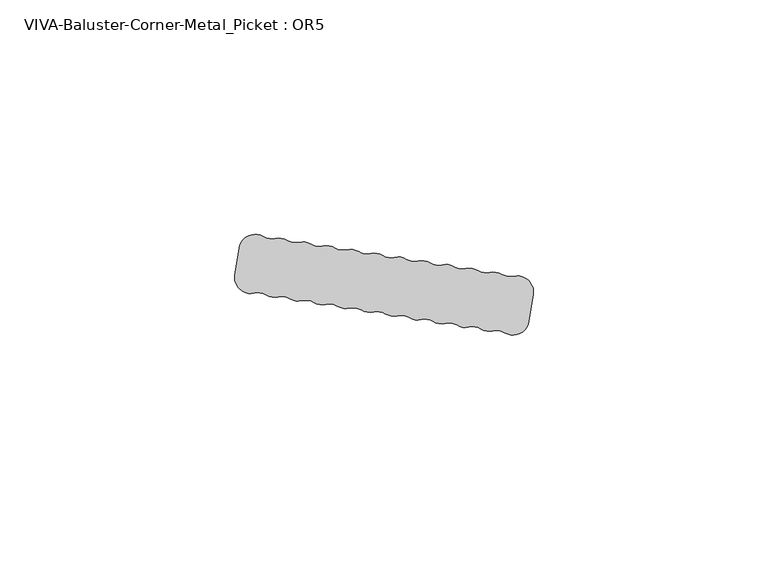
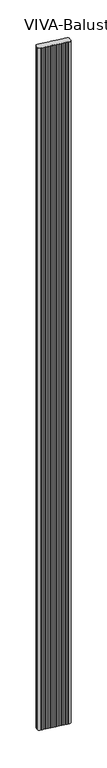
"""IFC4 building model written with IfcOpenShell, lengths in millimetres: railing geometry, VIVA-Baluster-Corner-Metal_Picket : OR5."""

from ifc_helpers import new_model, si_unit, frame, origin, place, context, project, spatial, polyline, circle_curve, source, transform, mapped, element, save
from ifc_brep_helpers import plane_surface, cylinder_surface, revolved_surface, advanced_brep


def viva_baluster_corner_metal_picket_or5_769cadf6(model_context):
    return source(origin(), model_context, "Body", "AdvancedBrep", [
        advanced_brep(
        [(50.6303843, 139.2897804, 1219.2), (55.7951848, 141.6988962, 1219.2), (56.7064442, 147.4523617, 1219.2), (52.5388848, 151.3395781, 1219.2), (49.9967015, 151.7422204, 1219.2), (47.4545181, 152.1448627, 1219.2), (44.9123348, 152.547505, 1219.2), (42.3701515, 152.9501473, 1219.2), (39.8279682, 153.3527895, 1219.2), (37.2857848, 153.7554318, 1219.2), (34.7436015, 154.1580741, 1219.2), (32.2014182, 154.5607164, 1219.2), (29.6592349, 154.9633587, 1219.2), (27.1170515, 155.366001, 1219.2), (24.5748682, 155.7686432, 1219.2), (22.0326849, 156.1712855, 1219.2), (19.4905016, 156.5739278, 1219.2), (16.9483182, 156.9765701, 1219.2), (14.4061349, 157.3792124, 1219.2), (11.8639516, 157.7818547, 1219.2), (9.3217683, 158.1844969, 1219.2), (6.7795849, 158.5871392, 1219.2), (4.2374016, 158.9897815, 1219.2), (1.6952183, 159.3924238, 1219.2), (-0.846965, 159.7950661, 1219.2), (-6.0117655, 157.3859502, 1219.2), (-6.9230249, 151.6324848, 1219.2), (-2.7554655, 147.7452683, 1219.2), (-0.2132822, 147.342626, 1219.2), (2.3289011, 146.9399838, 1219.2), (4.8710845, 146.5373415, 1219.2), (7.4132678, 146.1346992, 1219.2), (9.9554511, 145.7320569, 1219.2), (12.4976344, 145.3294146, 1219.2), (15.0398178, 144.9267723, 1219.2), (17.5820011, 144.5241301, 1219.2), (20.1241844, 144.1214878, 1219.2), (22.6663677, 143.7188455, 1219.2), (25.2085511, 143.3162032, 1219.2), (27.7507344, 142.9135609, 1219.2), (30.2929177, 142.5109186, 1219.2), (32.835101, 142.1082764, 1219.2), (35.3772844, 141.7056341, 1219.2), (37.9194677, 141.3029918, 1219.2), (40.461651, 140.9003495, 1219.2), (43.0038343, 140.4977072, 1219.2), (45.5460177, 140.0950649, 1219.2), (48.088201, 139.6924227, 1219.2), (50.6303843, 139.2897804, -245.8945017), (48.088201, 139.6924227, -245.8945017), (45.5460177, 140.0950649, -245.8945017), (43.0038343, 140.4977072, -245.8945017), (40.461651, 140.9003495, -245.8945017), (37.9194677, 141.3029918, -245.8945017), (35.3772844, 141.7056341, -245.8945017), (32.835101, 142.1082764, -245.8945017), (30.2929177, 142.5109186, -245.8945017), (27.7507344, 142.9135609, -245.8945017), (25.2085511, 143.3162032, -245.8945017), (22.6663677, 143.7188455, -245.8945017), (20.1241844, 144.1214878, -245.8945017), (17.5820011, 144.5241301, -245.8945017), (15.0398178, 144.9267723, -245.8945017), (12.4976344, 145.3294146, -245.8945017), (9.9554511, 145.7320569, -245.8945017), (7.4132678, 146.1346992, -245.8945017), (4.8710845, 146.5373415, -245.8945017), (2.3289011, 146.9399838, -245.8945017), (-0.2132822, 147.342626, -245.8945017), (-2.7554655, 147.7452683, -245.8945017), (-6.9230249, 151.6324848, -245.8945017), (-6.0117655, 157.3859502, -245.8945017), (-0.846965, 159.7950661, -245.8945017), (1.6952183, 159.3924238, -245.8945017), (4.2374016, 158.9897815, -245.8945017), (6.7795849, 158.5871392, -245.8945017), (9.3217683, 158.1844969, -245.8945017), (11.8639516, 157.7818547, -245.8945017), (14.4061349, 157.3792124, -245.8945017), (16.9483182, 156.9765701, -245.8945017), (19.4905016, 156.5739278, -245.8945017), (22.0326849, 156.1712855, -245.8945017), (24.5748682, 155.7686432, -245.8945017), (27.1170515, 155.366001, -245.8945017), (29.6592349, 154.9633587, -245.8945017), (32.2014182, 154.5607164, -245.8945017), (34.7436015, 154.1580741, -245.8945017), (37.2857848, 153.7554318, -245.8945017), (39.8279682, 153.3527895, -245.8945017), (42.3701515, 152.9501473, -245.8945017), (44.9123348, 152.547505, -245.8945017), (47.4545181, 152.1448627, -245.8945017), (49.9967015, 151.7422204, -245.8945017), (52.5388848, 151.3395781, -245.8945017), (56.7064442, 147.4523617, -245.8945017), (55.7951848, 141.6988962, -245.8945017)],
        [
            (0, 1, circle_curve(frame((52.4000965, 142.2366254, 1219.2), z_axis=(0.0, 0.0, 1.0), x_axis=(1.0, 0.0, 0.0)), 3.4374084)),
            (1, 2),
            (2, 3, circle_curve(frame((53.3113559, 147.9900908, 1219.2), z_axis=(0.0, 0.0, 1.0), x_axis=(1.0, 0.0, 0.0)), 3.4374084)),
            (3, 4, circle_curve(frame((51.7664137, 154.6890654, 1219.2), z_axis=(0.0, 0.0, -1.0), x_axis=(1.0, 0.0, 0.0)), 3.4374084)),
            (4, 5, circle_curve(frame((48.2269893, 148.7953754, 1219.2), z_axis=(0.0, 0.0, 1.0), x_axis=(1.0, 0.0, 0.0)), 3.4374084)),
            (5, 6, circle_curve(frame((46.682047, 155.49435, 1219.2), z_axis=(0.0, 0.0, -1.0), x_axis=(1.0, 0.0, 0.0)), 3.4374084)),
            (6, 7, circle_curve(frame((43.1426226, 149.60066, 1219.2), z_axis=(0.0, 0.0, 1.0), x_axis=(1.0, 0.0, 0.0)), 3.4374084)),
            (7, 8, circle_curve(frame((41.5976804, 156.2996346, 1219.2), z_axis=(0.0, 0.0, -1.0), x_axis=(1.0, 0.0, 0.0)), 3.4374084)),
            (8, 9, circle_curve(frame((38.058256, 150.4059445, 1219.2), z_axis=(0.0, 0.0, 1.0), x_axis=(1.0, 0.0, 0.0)), 3.4374084)),
            (9, 10, circle_curve(frame((36.5133137, 157.1049191, 1219.2), z_axis=(0.0, 0.0, -1.0), x_axis=(1.0, 0.0, 0.0)), 3.4374084)),
            (10, 11, circle_curve(frame((32.9738893, 151.2112291, 1219.2), z_axis=(0.0, 0.0, 1.0), x_axis=(1.0, 0.0, 0.0)), 3.4374084)),
            (11, 12, circle_curve(frame((31.4289471, 157.9102037, 1219.2), z_axis=(0.0, 0.0, -1.0), x_axis=(1.0, 0.0, 0.0)), 3.4374084)),
            (12, 13, circle_curve(frame((27.8895227, 152.0165137, 1219.2), z_axis=(0.0, 0.0, 1.0), x_axis=(1.0, 0.0, 0.0)), 3.4374084)),
            (13, 14, circle_curve(frame((26.3445804, 158.7154883, 1219.2), z_axis=(0.0, 0.0, -1.0), x_axis=(1.0, 0.0, 0.0)), 3.4374084)),
            (14, 15, circle_curve(frame((22.805156, 152.8217982, 1219.2), z_axis=(0.0, 0.0, 1.0), x_axis=(1.0, 0.0, 0.0)), 3.4374084)),
            (15, 16, circle_curve(frame((21.2602138, 159.5207728, 1219.2), z_axis=(0.0, 0.0, -1.0), x_axis=(1.0, 0.0, 0.0)), 3.4374084)),
            (16, 17, circle_curve(frame((17.7207894, 153.6270828, 1219.2), z_axis=(0.0, 0.0, 1.0), x_axis=(1.0, 0.0, 0.0)), 3.4374084)),
            (17, 18, circle_curve(frame((16.1758471, 160.3260574, 1219.2), z_axis=(0.0, 0.0, -1.0), x_axis=(1.0, 0.0, 0.0)), 3.4374084)),
            (18, 19, circle_curve(frame((12.6364227, 154.4323674, 1219.2), z_axis=(0.0, 0.0, 1.0), x_axis=(1.0, 0.0, 0.0)), 3.4374084)),
            (19, 20, circle_curve(frame((11.0914805, 161.131342, 1219.2), z_axis=(0.0, 0.0, -1.0), x_axis=(1.0, 0.0, 0.0)), 3.4374084)),
            (20, 21, circle_curve(frame((7.5520561, 155.2376519, 1219.2), z_axis=(0.0, 0.0, 1.0), x_axis=(1.0, 0.0, 0.0)), 3.4374084)),
            (21, 22, circle_curve(frame((6.0071138, 161.9366265, 1219.2), z_axis=(0.0, 0.0, -1.0), x_axis=(1.0, 0.0, 0.0)), 3.4374084)),
            (22, 23, circle_curve(frame((2.4676894, 156.0429365, 1219.2), z_axis=(0.0, 0.0, 1.0), x_axis=(1.0, 0.0, 0.0)), 3.4374084)),
            (23, 24, circle_curve(frame((0.9227472, 162.7419111, 1219.2), z_axis=(0.0, 0.0, -1.0), x_axis=(1.0, 0.0, 0.0)), 3.4374084)),
            (24, 25, circle_curve(frame((-2.6166772, 156.8482211, 1219.2), z_axis=(0.0, 0.0, 1.0), x_axis=(1.0, 0.0, 0.0)), 3.4374084)),
            (25, 26),
            (26, 27, circle_curve(frame((-3.5279366, 151.0947556, 1219.2), z_axis=(0.0, 0.0, 1.0), x_axis=(1.0, 0.0, 0.0)), 3.4374084)),
            (27, 28, circle_curve(frame((-1.9829944, 144.395781, 1219.2), z_axis=(0.0, 0.0, -1.0), x_axis=(1.0, 0.0, 0.0)), 3.4374084)),
            (28, 29, circle_curve(frame((1.55643, 150.289471, 1219.2), z_axis=(0.0, 0.0, 1.0), x_axis=(1.0, 0.0, 0.0)), 3.4374084)),
            (29, 30, circle_curve(frame((3.1013723, 143.5904965, 1219.2), z_axis=(0.0, 0.0, -1.0), x_axis=(1.0, 0.0, 0.0)), 3.4374084)),
            (30, 31, circle_curve(frame((6.6407967, 149.4841865, 1219.2), z_axis=(0.0, 0.0, 1.0), x_axis=(1.0, 0.0, 0.0)), 3.4374084)),
            (31, 32, circle_curve(frame((8.1857389, 142.7852119, 1219.2), z_axis=(0.0, 0.0, -1.0), x_axis=(1.0, 0.0, 0.0)), 3.4374084)),
            (32, 33, circle_curve(frame((11.7251633, 148.6789019, 1219.2), z_axis=(0.0, 0.0, 1.0), x_axis=(1.0, 0.0, 0.0)), 3.4374084)),
            (33, 34, circle_curve(frame((13.2701056, 141.9799273, 1219.2), z_axis=(0.0, 0.0, -1.0), x_axis=(1.0, 0.0, 0.0)), 3.4374084)),
            (34, 35, circle_curve(frame((16.80953, 147.8736173, 1219.2), z_axis=(0.0, 0.0, 1.0), x_axis=(1.0, 0.0, 0.0)), 3.4374084)),
            (35, 36, circle_curve(frame((18.3544722, 141.1746428, 1219.2), z_axis=(0.0, 0.0, -1.0), x_axis=(1.0, 0.0, 0.0)), 3.4374084)),
            (36, 37, circle_curve(frame((21.8938966, 147.0683328, 1219.2), z_axis=(0.0, 0.0, 1.0), x_axis=(1.0, 0.0, 0.0)), 3.4374084)),
            (37, 38, circle_curve(frame((23.4388389, 140.3693582, 1219.2), z_axis=(0.0, 0.0, -1.0), x_axis=(1.0, 0.0, 0.0)), 3.4374084)),
            (38, 39, circle_curve(frame((26.9782633, 146.2630482, 1219.2), z_axis=(0.0, 0.0, 1.0), x_axis=(1.0, 0.0, 0.0)), 3.4374084)),
            (39, 40, circle_curve(frame((28.5232055, 139.5640736, 1219.2), z_axis=(0.0, 0.0, -1.0), x_axis=(1.0, 0.0, 0.0)), 3.4374084)),
            (40, 41, circle_curve(frame((32.0626299, 145.4577636, 1219.2), z_axis=(0.0, 0.0, 1.0), x_axis=(1.0, 0.0, 0.0)), 3.4374084)),
            (41, 42, circle_curve(frame((33.6075722, 138.7587891, 1219.2), z_axis=(0.0, 0.0, -1.0), x_axis=(1.0, 0.0, 0.0)), 3.4374084)),
            (42, 43, circle_curve(frame((37.1469966, 144.6524791, 1219.2), z_axis=(0.0, 0.0, 1.0), x_axis=(1.0, 0.0, 0.0)), 3.4374084)),
            (43, 44, circle_curve(frame((38.6919388, 137.9535045, 1219.2), z_axis=(0.0, 0.0, -1.0), x_axis=(1.0, 0.0, 0.0)), 3.4374084)),
            (44, 45, circle_curve(frame((42.2313632, 143.8471945, 1219.2), z_axis=(0.0, 0.0, 1.0), x_axis=(1.0, 0.0, 0.0)), 3.4374084)),
            (45, 46, circle_curve(frame((43.7763055, 137.1482199, 1219.2), z_axis=(0.0, 0.0, -1.0), x_axis=(1.0, 0.0, 0.0)), 3.4374084)),
            (46, 47, circle_curve(frame((47.3157299, 143.0419099, 1219.2), z_axis=(0.0, 0.0, 1.0), x_axis=(1.0, 0.0, 0.0)), 3.4374084)),
            (47, 0, circle_curve(frame((48.8606721, 136.3429354, 1219.2), z_axis=(0.0, 0.0, -1.0), x_axis=(1.0, 0.0, 0.0)), 3.4374084)),
            (48, 49, circle_curve(frame((48.8606721, 136.3429354, -245.8945017), z_axis=(0.0, 0.0, 1.0), x_axis=(1.0, 0.0, 0.0)), 3.4374084)),
            (49, 50, circle_curve(frame((47.3157299, 143.0419099, -245.8945017), z_axis=(0.0, 0.0, -1.0), x_axis=(1.0, 0.0, 0.0)), 3.4374084)),
            (50, 51, circle_curve(frame((43.7763055, 137.1482199, -245.8945017), z_axis=(0.0, 0.0, 1.0), x_axis=(1.0, 0.0, 0.0)), 3.4374084)),
            (51, 52, circle_curve(frame((42.2313632, 143.8471945, -245.8945017), z_axis=(0.0, 0.0, -1.0), x_axis=(1.0, 0.0, 0.0)), 3.4374084)),
            (52, 53, circle_curve(frame((38.6919388, 137.9535045, -245.8945017), z_axis=(0.0, 0.0, 1.0), x_axis=(1.0, 0.0, 0.0)), 3.4374084)),
            (53, 54, circle_curve(frame((37.1469966, 144.6524791, -245.8945017), z_axis=(0.0, 0.0, -1.0), x_axis=(1.0, 0.0, 0.0)), 3.4374084)),
            (54, 55, circle_curve(frame((33.6075722, 138.7587891, -245.8945017), z_axis=(0.0, 0.0, 1.0), x_axis=(1.0, 0.0, 0.0)), 3.4374084)),
            (55, 56, circle_curve(frame((32.0626299, 145.4577636, -245.8945017), z_axis=(0.0, 0.0, -1.0), x_axis=(1.0, 0.0, 0.0)), 3.4374084)),
            (56, 57, circle_curve(frame((28.5232055, 139.5640736, -245.8945017), z_axis=(0.0, 0.0, 1.0), x_axis=(1.0, 0.0, 0.0)), 3.4374084)),
            (57, 58, circle_curve(frame((26.9782633, 146.2630482, -245.8945017), z_axis=(0.0, 0.0, -1.0), x_axis=(1.0, 0.0, 0.0)), 3.4374084)),
            (58, 59, circle_curve(frame((23.4388389, 140.3693582, -245.8945017), z_axis=(0.0, 0.0, 1.0), x_axis=(1.0, 0.0, 0.0)), 3.4374084)),
            (59, 60, circle_curve(frame((21.8938966, 147.0683328, -245.8945017), z_axis=(0.0, 0.0, -1.0), x_axis=(1.0, 0.0, 0.0)), 3.4374084)),
            (60, 61, circle_curve(frame((18.3544722, 141.1746428, -245.8945017), z_axis=(0.0, 0.0, 1.0), x_axis=(1.0, 0.0, 0.0)), 3.4374084)),
            (61, 62, circle_curve(frame((16.80953, 147.8736173, -245.8945017), z_axis=(0.0, 0.0, -1.0), x_axis=(1.0, 0.0, 0.0)), 3.4374084)),
            (62, 63, circle_curve(frame((13.2701056, 141.9799273, -245.8945017), z_axis=(0.0, 0.0, 1.0), x_axis=(1.0, 0.0, 0.0)), 3.4374084)),
            (63, 64, circle_curve(frame((11.7251633, 148.6789019, -245.8945017), z_axis=(0.0, 0.0, -1.0), x_axis=(1.0, 0.0, 0.0)), 3.4374084)),
            (64, 65, circle_curve(frame((8.1857389, 142.7852119, -245.8945017), z_axis=(0.0, 0.0, 1.0), x_axis=(1.0, 0.0, 0.0)), 3.4374084)),
            (65, 66, circle_curve(frame((6.6407967, 149.4841865, -245.8945017), z_axis=(0.0, 0.0, -1.0), x_axis=(1.0, 0.0, 0.0)), 3.4374084)),
            (66, 67, circle_curve(frame((3.1013723, 143.5904965, -245.8945017), z_axis=(0.0, 0.0, 1.0), x_axis=(1.0, 0.0, 0.0)), 3.4374084)),
            (67, 68, circle_curve(frame((1.55643, 150.289471, -245.8945017), z_axis=(0.0, 0.0, -1.0), x_axis=(1.0, 0.0, 0.0)), 3.4374084)),
            (68, 69, circle_curve(frame((-1.9829944, 144.395781, -245.8945017), z_axis=(0.0, 0.0, 1.0), x_axis=(1.0, 0.0, 0.0)), 3.4374084)),
            (69, 70, circle_curve(frame((-3.5279366, 151.0947556, -245.8945017), z_axis=(0.0, 0.0, -1.0), x_axis=(1.0, 0.0, 0.0)), 3.4374084)),
            (70, 71),
            (71, 72, circle_curve(frame((-2.6166772, 156.8482211, -245.8945017), z_axis=(0.0, 0.0, -1.0), x_axis=(1.0, 0.0, 0.0)), 3.4374084)),
            (72, 73, circle_curve(frame((0.9227472, 162.7419111, -245.8945017), z_axis=(0.0, 0.0, 1.0), x_axis=(1.0, 0.0, 0.0)), 3.4374084)),
            (73, 74, circle_curve(frame((2.4676894, 156.0429365, -245.8945017), z_axis=(0.0, 0.0, -1.0), x_axis=(1.0, 0.0, 0.0)), 3.4374084)),
            (74, 75, circle_curve(frame((6.0071138, 161.9366265, -245.8945017), z_axis=(0.0, 0.0, 1.0), x_axis=(1.0, 0.0, 0.0)), 3.4374084)),
            (75, 76, circle_curve(frame((7.5520561, 155.2376519, -245.8945017), z_axis=(0.0, 0.0, -1.0), x_axis=(1.0, 0.0, 0.0)), 3.4374084)),
            (76, 77, circle_curve(frame((11.0914805, 161.131342, -245.8945017), z_axis=(0.0, 0.0, 1.0), x_axis=(1.0, 0.0, 0.0)), 3.4374084)),
            (77, 78, circle_curve(frame((12.6364227, 154.4323674, -245.8945017), z_axis=(0.0, 0.0, -1.0), x_axis=(1.0, 0.0, 0.0)), 3.4374084)),
            (78, 79, circle_curve(frame((16.1758471, 160.3260574, -245.8945017), z_axis=(0.0, 0.0, 1.0), x_axis=(1.0, 0.0, 0.0)), 3.4374084)),
            (79, 80, circle_curve(frame((17.7207894, 153.6270828, -245.8945017), z_axis=(0.0, 0.0, -1.0), x_axis=(1.0, 0.0, 0.0)), 3.4374084)),
            (80, 81, circle_curve(frame((21.2602138, 159.5207728, -245.8945017), z_axis=(0.0, 0.0, 1.0), x_axis=(1.0, 0.0, 0.0)), 3.4374084)),
            (81, 82, circle_curve(frame((22.805156, 152.8217982, -245.8945017), z_axis=(0.0, 0.0, -1.0), x_axis=(1.0, 0.0, 0.0)), 3.4374084)),
            (82, 83, circle_curve(frame((26.3445804, 158.7154883, -245.8945017), z_axis=(0.0, 0.0, 1.0), x_axis=(1.0, 0.0, 0.0)), 3.4374084)),
            (83, 84, circle_curve(frame((27.8895227, 152.0165137, -245.8945017), z_axis=(0.0, 0.0, -1.0), x_axis=(1.0, 0.0, 0.0)), 3.4374084)),
            (84, 85, circle_curve(frame((31.4289471, 157.9102037, -245.8945017), z_axis=(0.0, 0.0, 1.0), x_axis=(1.0, 0.0, 0.0)), 3.4374084)),
            (85, 86, circle_curve(frame((32.9738893, 151.2112291, -245.8945017), z_axis=(0.0, 0.0, -1.0), x_axis=(1.0, 0.0, 0.0)), 3.4374084)),
            (86, 87, circle_curve(frame((36.5133137, 157.1049191, -245.8945017), z_axis=(0.0, 0.0, 1.0), x_axis=(1.0, 0.0, 0.0)), 3.4374084)),
            (87, 88, circle_curve(frame((38.058256, 150.4059445, -245.8945017), z_axis=(0.0, 0.0, -1.0), x_axis=(1.0, 0.0, 0.0)), 3.4374084)),
            (88, 89, circle_curve(frame((41.5976804, 156.2996346, -245.8945017), z_axis=(0.0, 0.0, 1.0), x_axis=(1.0, 0.0, 0.0)), 3.4374084)),
            (89, 90, circle_curve(frame((43.1426226, 149.60066, -245.8945017), z_axis=(0.0, 0.0, -1.0), x_axis=(1.0, 0.0, 0.0)), 3.4374084)),
            (90, 91, circle_curve(frame((46.682047, 155.49435, -245.8945017), z_axis=(0.0, 0.0, 1.0), x_axis=(1.0, 0.0, 0.0)), 3.4374084)),
            (91, 92, circle_curve(frame((48.2269893, 148.7953754, -245.8945017), z_axis=(0.0, 0.0, -1.0), x_axis=(1.0, 0.0, 0.0)), 3.4374084)),
            (92, 93, circle_curve(frame((51.7664137, 154.6890654, -245.8945017), z_axis=(0.0, 0.0, 1.0), x_axis=(1.0, 0.0, 0.0)), 3.4374084)),
            (93, 94, circle_curve(frame((53.3113559, 147.9900908, -245.8945017), z_axis=(0.0, 0.0, -1.0), x_axis=(1.0, 0.0, 0.0)), 3.4374084)),
            (94, 95),
            (95, 48, circle_curve(frame((52.4000965, 142.2366254, -245.8945017), z_axis=(0.0, 0.0, -1.0), x_axis=(1.0, 0.0, 0.0)), 3.4374084)),
            (0, 48),
            (95, 1),
            (94, 2),
            (93, 3),
            (92, 4),
            (91, 5),
            (90, 6),
            (89, 7),
            (88, 8),
            (87, 9),
            (86, 10),
            (85, 11),
            (84, 12),
            (83, 13),
            (82, 14),
            (81, 15),
            (80, 16),
            (79, 17),
            (78, 18),
            (77, 19),
            (76, 20),
            (75, 21),
            (74, 22),
            (73, 23),
            (72, 24),
            (71, 25),
            (70, 26),
            (69, 27),
            (68, 28),
            (67, 29),
            (66, 30),
            (65, 31),
            (64, 32),
            (63, 33),
            (62, 34),
            (61, 35),
            (60, 36),
            (59, 37),
            (58, 38),
            (57, 39),
            (56, 40),
            (55, 41),
            (54, 42),
            (53, 43),
            (52, 44),
            (51, 45),
            (50, 46),
            (49, 47),
        ],
        [
            plane_surface(frame((55.837505, 142.2366254, 1219.2), z_axis=(0.0, 0.0, 1.0), x_axis=(0.0, 1.0, 0.0))),
            plane_surface(frame((55.837505, 142.2366254, -245.8945017), z_axis=(0.0, 0.0, -1.0), x_axis=(0.0, -1.0, 0.0))),
            cylinder_surface(frame((52.4000965, 142.2366254, -245.8945017), z_axis=(0.0, 0.0, 1.0), x_axis=(1.0, 0.0, 0.0)), 3.4374084),
            plane_surface(frame((55.7951848, 141.6988962, 1219.2), z_axis=(0.9876883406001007, -0.15643446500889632, 0.0), x_axis=(0.0, 0.0, -1.0))),
            cylinder_surface(frame((53.3113559, 147.9900908, -245.8945017), z_axis=(0.0, 0.0, 1.0), x_axis=(1.0, 0.0, 0.0)), 3.4374084),
            revolved_surface(polyline([(55.203822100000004, 154.6890654, -245.8945017), (55.203822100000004, 154.6890654, 1219.2)]), (51.7664137, 154.6890654, -245.8945017), (0.0, 0.0, -1.0)),
            cylinder_surface(frame((48.2269893, 148.7953754, -245.8945017), z_axis=(0.0, 0.0, 1.0), x_axis=(1.0, 0.0, 0.0)), 3.4374084),
            revolved_surface(polyline([(50.1194554, 155.49435, -245.8945017), (50.1194554, 155.49435, 1219.2)]), (46.682047, 155.49435, -245.8945017), (0.0, 0.0, -1.0)),
            cylinder_surface(frame((43.1426226, 149.60066, -245.8945017), z_axis=(0.0, 0.0, 1.0), x_axis=(1.0, 0.0, 0.0)), 3.4374084),
            revolved_surface(polyline([(45.035088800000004, 156.2996346, -245.8945017), (45.035088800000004, 156.2996346, 1219.2)]), (41.5976804, 156.2996346, -245.8945017), (0.0, 0.0, -1.0)),
            cylinder_surface(frame((38.058256, 150.4059445, -245.8945017), z_axis=(0.0, 0.0, 1.0), x_axis=(1.0, 0.0, 0.0)), 3.4374084),
            revolved_surface(polyline([(39.9507221, 157.1049191, -245.8945017), (39.9507221, 157.1049191, 1219.2)]), (36.5133137, 157.1049191, -245.8945017), (0.0, 0.0, -1.0)),
            cylinder_surface(frame((32.9738893, 151.2112291, -245.8945017), z_axis=(0.0, 0.0, 1.0), x_axis=(1.0, 0.0, 0.0)), 3.4374084),
            revolved_surface(polyline([(34.8663555, 157.9102037, -245.8945017), (34.8663555, 157.9102037, 1219.2)]), (31.4289471, 157.9102037, -245.8945017), (0.0, 0.0, -1.0)),
            cylinder_surface(frame((27.8895227, 152.0165137, -245.8945017), z_axis=(0.0, 0.0, 1.0), x_axis=(1.0, 0.0, 0.0)), 3.4374084),
            revolved_surface(polyline([(29.7819888, 158.7154883, -245.8945017), (29.7819888, 158.7154883, 1219.2)]), (26.3445804, 158.7154883, -245.8945017), (0.0, 0.0, -1.0)),
            cylinder_surface(frame((22.805156, 152.8217982, -245.8945017), z_axis=(0.0, 0.0, 1.0), x_axis=(1.0, 0.0, 0.0)), 3.4374084),
            revolved_surface(polyline([(24.697622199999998, 159.5207728, -245.8945017), (24.697622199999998, 159.5207728, 1219.2)]), (21.2602138, 159.5207728, -245.8945017), (0.0, 0.0, -1.0)),
            cylinder_surface(frame((17.7207894, 153.6270828, -245.8945017), z_axis=(0.0, 0.0, 1.0), x_axis=(1.0, 0.0, 0.0)), 3.4374084),
            revolved_surface(polyline([(19.613255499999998, 160.3260574, -245.8945017), (19.613255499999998, 160.3260574, 1219.2)]), (16.1758471, 160.3260574, -245.8945017), (0.0, 0.0, -1.0)),
            cylinder_surface(frame((12.6364227, 154.4323674, -245.8945017), z_axis=(0.0, 0.0, 1.0), x_axis=(1.0, 0.0, 0.0)), 3.4374084),
            revolved_surface(polyline([(14.528888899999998, 161.131342, -245.8945017), (14.528888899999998, 161.131342, 1219.2)]), (11.0914805, 161.131342, -245.8945017), (0.0, 0.0, -1.0)),
            cylinder_surface(frame((7.5520561, 155.2376519, -245.8945017), z_axis=(0.0, 0.0, 1.0), x_axis=(1.0, 0.0, 0.0)), 3.4374084),
            revolved_surface(polyline([(9.4445222, 161.9366265, -245.8945017), (9.4445222, 161.9366265, 1219.2)]), (6.0071138, 161.9366265, -245.8945017), (0.0, 0.0, -1.0)),
            cylinder_surface(frame((2.4676894, 156.0429365, -245.8945017), z_axis=(0.0, 0.0, 1.0), x_axis=(1.0, 0.0, 0.0)), 3.4374084),
            revolved_surface(polyline([(4.3601556, 162.7419111, -245.8945017), (4.3601556, 162.7419111, 1219.2)]), (0.9227472, 162.7419111, -245.8945017), (0.0, 0.0, -1.0)),
            cylinder_surface(frame((-2.6166772, 156.8482211, -245.8945017), z_axis=(0.0, 0.0, 1.0), x_axis=(1.0, 0.0, 0.0)), 3.4374084),
            plane_surface(frame((-6.0117655, 157.3859502, 1219.2), z_axis=(-0.9876883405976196, 0.1564344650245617, 0.0), x_axis=(0.0, 0.0, -1.0))),
            cylinder_surface(frame((-3.5279366, 151.0947556, -245.8945017), z_axis=(0.0, 0.0, 1.0), x_axis=(1.0, 0.0, 0.0)), 3.4374084),
            revolved_surface(polyline([(1.4544139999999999, 144.395781, -245.8945017), (1.4544139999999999, 144.395781, 1219.2)]), (-1.9829944, 144.395781, -245.8945017), (0.0, 0.0, -1.0)),
            cylinder_surface(frame((1.55643, 150.289471, -245.8945017), z_axis=(0.0, 0.0, 1.0), x_axis=(1.0, 0.0, 0.0)), 3.4374084),
            revolved_surface(polyline([(6.5387807, 143.5904965, -245.8945017), (6.5387807, 143.5904965, 1219.2)]), (3.1013723, 143.5904965, -245.8945017), (0.0, 0.0, -1.0)),
            cylinder_surface(frame((6.6407967, 149.4841865, -245.8945017), z_axis=(0.0, 0.0, 1.0), x_axis=(1.0, 0.0, 0.0)), 3.4374084),
            revolved_surface(polyline([(11.6231473, 142.7852119, -245.8945017), (11.6231473, 142.7852119, 1219.2)]), (8.1857389, 142.7852119, -245.8945017), (0.0, 0.0, -1.0)),
            cylinder_surface(frame((11.7251633, 148.6789019, -245.8945017), z_axis=(0.0, 0.0, 1.0), x_axis=(1.0, 0.0, 0.0)), 3.4374084),
            revolved_surface(polyline([(16.707514, 141.9799273, -245.8945017), (16.707514, 141.9799273, 1219.2)]), (13.2701056, 141.9799273, -245.8945017), (0.0, 0.0, -1.0)),
            cylinder_surface(frame((16.80953, 147.8736173, -245.8945017), z_axis=(0.0, 0.0, 1.0), x_axis=(1.0, 0.0, 0.0)), 3.4374084),
            revolved_surface(polyline([(21.7918806, 141.1746428, -245.8945017), (21.7918806, 141.1746428, 1219.2)]), (18.3544722, 141.1746428, -245.8945017), (0.0, 0.0, -1.0)),
            cylinder_surface(frame((21.8938966, 147.0683328, -245.8945017), z_axis=(0.0, 0.0, 1.0), x_axis=(1.0, 0.0, 0.0)), 3.4374084),
            revolved_surface(polyline([(26.8762473, 140.3693582, -245.8945017), (26.8762473, 140.3693582, 1219.2)]), (23.4388389, 140.3693582, -245.8945017), (0.0, 0.0, -1.0)),
            cylinder_surface(frame((26.9782633, 146.2630482, -245.8945017), z_axis=(0.0, 0.0, 1.0), x_axis=(1.0, 0.0, 0.0)), 3.4374084),
            revolved_surface(polyline([(31.9606139, 139.5640736, -245.8945017), (31.9606139, 139.5640736, 1219.2)]), (28.5232055, 139.5640736, -245.8945017), (0.0, 0.0, -1.0)),
            cylinder_surface(frame((32.0626299, 145.4577636, -245.8945017), z_axis=(0.0, 0.0, 1.0), x_axis=(1.0, 0.0, 0.0)), 3.4374084),
            revolved_surface(polyline([(37.0449806, 138.7587891, -245.8945017), (37.0449806, 138.7587891, 1219.2)]), (33.6075722, 138.7587891, -245.8945017), (0.0, 0.0, -1.0)),
            cylinder_surface(frame((37.1469966, 144.6524791, -245.8945017), z_axis=(0.0, 0.0, 1.0), x_axis=(1.0, 0.0, 0.0)), 3.4374084),
            revolved_surface(polyline([(42.129347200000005, 137.9535045, -245.8945017), (42.129347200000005, 137.9535045, 1219.2)]), (38.6919388, 137.9535045, -245.8945017), (0.0, 0.0, -1.0)),
            cylinder_surface(frame((42.2313632, 143.8471945, -245.8945017), z_axis=(0.0, 0.0, 1.0), x_axis=(1.0, 0.0, 0.0)), 3.4374084),
            revolved_surface(polyline([(47.2137139, 137.1482199, -245.8945017), (47.2137139, 137.1482199, 1219.2)]), (43.7763055, 137.1482199, -245.8945017), (0.0, 0.0, -1.0)),
            cylinder_surface(frame((47.3157299, 143.0419099, -245.8945017), z_axis=(0.0, 0.0, 1.0), x_axis=(1.0, 0.0, 0.0)), 3.4374084),
            revolved_surface(polyline([(52.298080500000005, 136.3429354, -245.8945017), (52.298080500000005, 136.3429354, 1219.2)]), (48.8606721, 136.3429354, -245.8945017), (0.0, 0.0, -1.0)),
        ],
        [
            (0, [[1, 2, 3, 4, 5, 6, 7, 8, 9, 10, 11, 12, 13, 14, 15, 16, 17, 18, 19, 20, 21, 22, 23, 24, 25, 26, 27, 28, 29, 30, 31, 32, 33, 34, 35, 36, 37, 38, 39, 40, 41, 42, 43, 44, 45, 46, 47, 48]]),
            (1, [[49, 50, 51, 52, 53, 54, 55, 56, 57, 58, 59, 60, 61, 62, 63, 64, 65, 66, 67, 68, 69, 70, 71, 72, 73, 74, 75, 76, 77, 78, 79, 80, 81, 82, 83, 84, 85, 86, 87, 88, 89, 90, 91, 92, 93, 94, 95, 96]]),
            (2, [[-1, 97, -96, 98]]),
            (3, [[-2, -98, -95, 99]]),
            (4, [[-3, -99, -94, 100]]),
            (5, [[-4, -100, -93, 101]]),
            (6, [[-5, -101, -92, 102]]),
            (7, [[-6, -102, -91, 103]]),
            (8, [[-7, -103, -90, 104]]),
            (9, [[-8, -104, -89, 105]]),
            (10, [[-9, -105, -88, 106]]),
            (11, [[-10, -106, -87, 107]]),
            (12, [[-11, -107, -86, 108]]),
            (13, [[-12, -108, -85, 109]]),
            (14, [[-13, -109, -84, 110]]),
            (15, [[-14, -110, -83, 111]]),
            (16, [[-15, -111, -82, 112]]),
            (17, [[-16, -112, -81, 113]]),
            (18, [[-17, -113, -80, 114]]),
            (19, [[-18, -114, -79, 115]]),
            (20, [[-19, -115, -78, 116]]),
            (21, [[-20, -116, -77, 117]]),
            (22, [[-21, -117, -76, 118]]),
            (23, [[-22, -118, -75, 119]]),
            (24, [[-23, -119, -74, 120]]),
            (25, [[-24, -120, -73, 121]]),
            (26, [[-25, -121, -72, 122]]),
            (27, [[-26, -122, -71, 123]]),
            (28, [[-27, -123, -70, 124]]),
            (29, [[-28, -124, -69, 125]]),
            (30, [[-29, -125, -68, 126]]),
            (31, [[-30, -126, -67, 127]]),
            (32, [[-31, -127, -66, 128]]),
            (33, [[-32, -128, -65, 129]]),
            (34, [[-33, -129, -64, 130]]),
            (35, [[-34, -130, -63, 131]]),
            (36, [[-35, -131, -62, 132]]),
            (37, [[-36, -132, -61, 133]]),
            (38, [[-37, -133, -60, 134]]),
            (39, [[-38, -134, -59, 135]]),
            (40, [[-39, -135, -58, 136]]),
            (41, [[-40, -136, -57, 137]]),
            (42, [[-41, -137, -56, 138]]),
            (43, [[-42, -138, -55, 139]]),
            (44, [[-43, -139, -54, 140]]),
            (45, [[-44, -140, -53, 141]]),
            (46, [[-45, -141, -52, 142]]),
            (47, [[-46, -142, -51, 143]]),
            (48, [[-47, -143, -50, 144]]),
            (49, [[-48, -144, -49, -97]]),
        ],
    ),
    ])


if __name__ == "__main__":
    model = new_model("IFC4")
    model_context = context("Model", 3, world=origin())
    ifc_project = project(units=[si_unit("LENGTHUNIT", "METRE", prefix="MILLI")], contexts=[model_context])
    site = spatial("IfcSite", under=ifc_project)
    building = spatial("IfcBuilding", under=site)
    placement = place(None, origin())
    viva_baluster_corner_metal_picket_or5_shape = viva_baluster_corner_metal_picket_or5_769cadf6(model_context)
    element("IfcRailing", 1, ObjectType="VIVA-Baluster-Corner-Metal_Picket : OR5", at=placement, inside=building, context=model_context, shape_type="MappedRepresentation", body=[
        mapped(viva_baluster_corner_metal_picket_or5_shape, transform((0.0, 0.0, 0.0), x_axis=(1.0, 0.0, 0.0), y_axis=(0.0, 1.0, 0.0), z_axis=(0.0, 0.0, 1.0))),
    ])
    save(model, "model.ifc")
